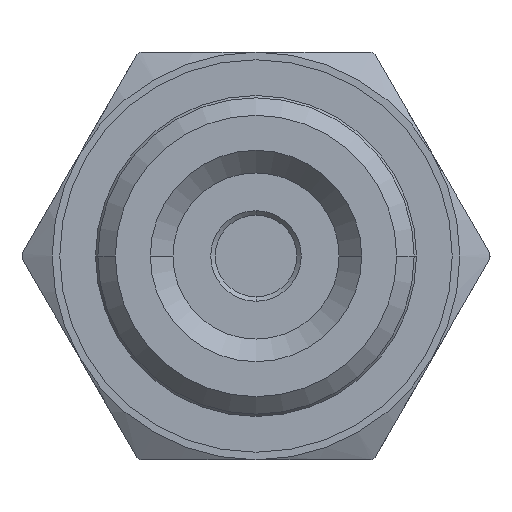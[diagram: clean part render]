
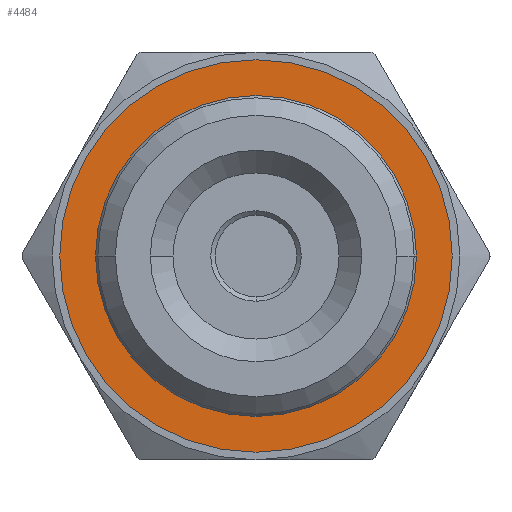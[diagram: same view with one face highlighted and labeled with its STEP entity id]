
A CAD part, front view. The second image highlights one B-rep face of the part: STEP entity #4484.
In plain terms, the highlighted planar face has unit normal (0, -1, 0).
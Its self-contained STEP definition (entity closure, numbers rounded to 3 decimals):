
#1843=CARTESIAN_POINT('',(0.,-11.3,0.));
#1844=DIRECTION('',(0.,1.,0.));
#1845=DIRECTION('',(-1.,0.,0.));
#1846=AXIS2_PLACEMENT_3D('',#1843,#1844,#1845);
#1848=CARTESIAN_POINT('',(0.,-11.3,0.));
#1849=DIRECTION('',(0.,1.,0.));
#1850=DIRECTION('',(1.,0.,0.));
#1851=AXIS2_PLACEMENT_3D('',#1848,#1849,#1850);
#1853=CARTESIAN_POINT('',(0.,-11.3,0.));
#1854=DIRECTION('',(0.,-1.,0.));
#1855=DIRECTION('',(-1.,0.,0.));
#1856=AXIS2_PLACEMENT_3D('',#1853,#1854,#1855);
#1858=CARTESIAN_POINT('',(0.,-11.3,0.));
#1859=DIRECTION('',(0.,-1.,0.));
#1860=DIRECTION('',(1.,0.,0.));
#1861=AXIS2_PLACEMENT_3D('',#1858,#1859,#1860);
#3167=CARTESIAN_POINT('',(13.,-11.3,0.));
#3168=VERTEX_POINT('',#3167);
#3169=CARTESIAN_POINT('',(-13.,-11.3,0.));
#3170=VERTEX_POINT('',#3169);
#3171=CARTESIAN_POINT('',(-10.63,-11.3,0.));
#3172=CARTESIAN_POINT('',(10.63,-11.3,0.));
#3173=VERTEX_POINT('',#3171);
#3174=VERTEX_POINT('',#3172);
#4469=CARTESIAN_POINT('',(-10.63,-11.3,0.));
#4470=DIRECTION('',(0.,-1.,0.));
#4471=DIRECTION('',(1.,0.,0.));
#4472=AXIS2_PLACEMENT_3D('',#4469,#4470,#4471);
#4473=PLANE('',#4472);
#4474=ORIENTED_EDGE('',*,*,#4449,.T.);
#4475=ORIENTED_EDGE('',*,*,#4462,.T.);
#4476=EDGE_LOOP('',(#4474,#4475));
#4477=FACE_OUTER_BOUND('',#4476,.F.);
#4479=ORIENTED_EDGE('',*,*,#4478,.T.);
#4481=ORIENTED_EDGE('',*,*,#4480,.T.);
#4482=EDGE_LOOP('',(#4479,#4481));
#4483=FACE_BOUND('',#4482,.F.);
#4484=ADVANCED_FACE('',(#4477,#4483),#4473,.T.);
#1847=CIRCLE('',#1846,13.);
#1852=CIRCLE('',#1851,13.);
#1857=CIRCLE('',#1856,10.63);
#1862=CIRCLE('',#1861,10.63);
#4449=EDGE_CURVE('',#3170,#3168,#1847,.T.);
#4462=EDGE_CURVE('',#3168,#3170,#1852,.T.);
#4478=EDGE_CURVE('',#3173,#3174,#1857,.T.);
#4480=EDGE_CURVE('',#3174,#3173,#1862,.T.);
